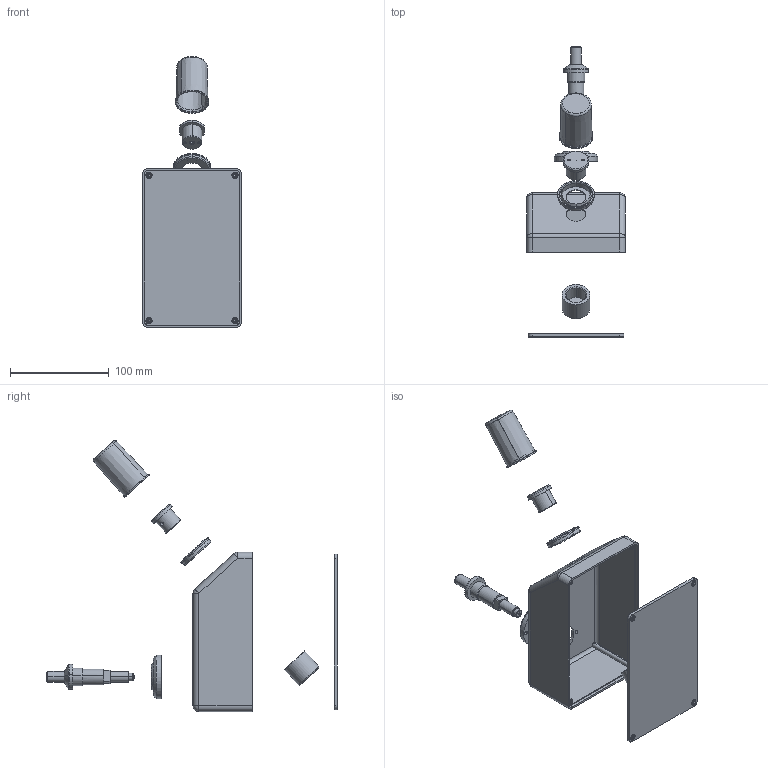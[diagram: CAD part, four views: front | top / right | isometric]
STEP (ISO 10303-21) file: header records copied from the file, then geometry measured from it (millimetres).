
FILE_DESCRIPTION (( 'STEP AP203' ), '1' );
FILE_NAME ('Öko-Böller.STEP', '2020-12-15T00:51:28', ( '' ), ( '' ), 'SwSTEP 2.0', 'SolidWorks 2017', '' );
FILE_SCHEMA (( 'CONFIG_CONTROL_DESIGN' ));
Length unit declared in the file: millimetre
Products named in the file (9): Gehäusedeckel_Strapubox-3023-H-60-Pult; Distanzring_Zünder; Öko-Böller; Filmdose; Piezo-Zünder; Elektrodenhalter_innen; Elektrodenhalter_aussen; Gehäuseboden_Strapubox-3023-H-60-Pult; Filmdose_Deckel
Assembly tree (8 placements, depth 2):
  Öko-Böller
    Gehäusedeckel_Strapubox-3023-H-60-Pult
    Piezo-Zünder
    Distanzring_Zünder
    Filmdose_Deckel
    Elektrodenhalter_aussen
    Filmdose
    Gehäuseboden_Strapubox-3023-H-60-Pult
    Elektrodenhalter_innen
Bounding box: 100 x 293.3 x 273.99 mm (x, y, z)
Volume: 196759.4 mm3; surface area: 145666.6 mm2
Topology: 8 solids, 8 shells, 320 faces, 730 edges, 433 vertices
Faces by surface type: cylinder 146, cone 74, plane 70, torus 18, sphere 12
Entity records: 10181 total; most frequent: CARTESIAN_POINT 1828, DIRECTION 1724, ORIENTED_EDGE 1412, AXIS2_PLACEMENT_3D 715, EDGE_CURVE 706, VERTEX_POINT 433, EDGE_LOOP 389, CIRCLE 384
